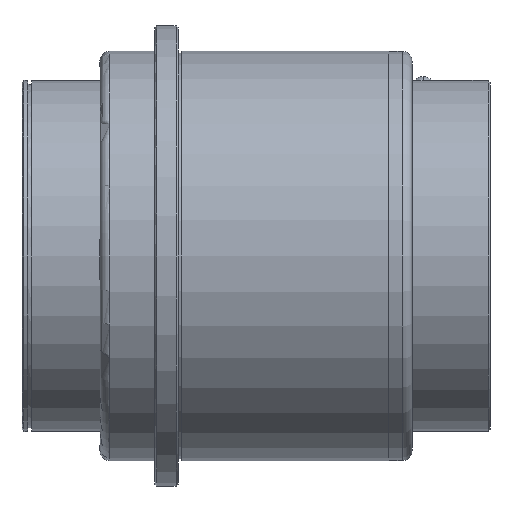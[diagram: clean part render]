
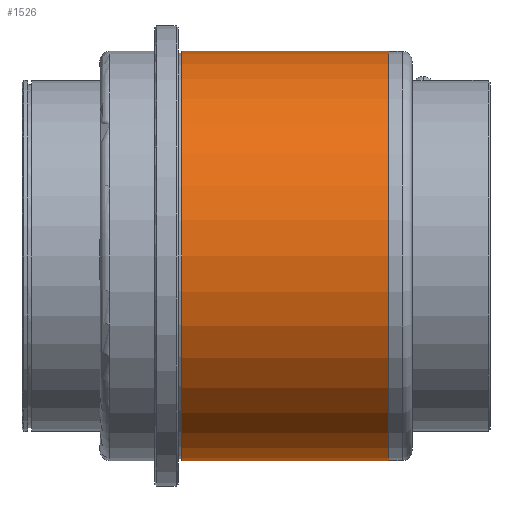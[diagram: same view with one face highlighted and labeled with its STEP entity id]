
A CAD part, front view. The second image highlights one B-rep face of the part: STEP entity #1526.
In plain terms, the highlighted cylindrical face has radius 52.5 mm (diameter 105 mm), a partial arc.
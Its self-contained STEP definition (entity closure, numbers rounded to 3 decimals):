
#1360=CARTESIAN_POINT('Vertex',(74.,0.,52.5)) ;
#1363=CARTESIAN_POINT('Axis2P3D Location',(74.,0.,0.)) ;
#1367=CARTESIAN_POINT('Vertex',(74.,-52.5,0.)) ;
#1370=CARTESIAN_POINT('Axis2P3D Location',(74.,0.,0.)) ;
#1374=CARTESIAN_POINT('Vertex',(74.,0.,-52.5)) ;
#1466=CARTESIAN_POINT('Line Origine',(80.,0.,52.5)) ;
#1470=CARTESIAN_POINT('Vertex',(21.,0.,52.5)) ;
#1473=CARTESIAN_POINT('Line Origine',(80.,0.,-52.5)) ;
#1477=CARTESIAN_POINT('Vertex',(21.,0.,-52.5)) ;
#1501=CARTESIAN_POINT('Axis2P3D Location',(80.,0.,0.)) ;
#1506=CARTESIAN_POINT('Axis2P3D Location',(21.,0.,0.)) ;
#1510=CARTESIAN_POINT('Vertex',(21.,-52.5,0.)) ;
#1513=CARTESIAN_POINT('Axis2P3D Location',(21.,0.,0.)) ;
#1364=DIRECTION('Axis2P3D Direction',(1.,0.,-0.)) ;
#1371=DIRECTION('Axis2P3D Direction',(1.,0.,-0.)) ;
#1467=DIRECTION('Vector Direction',(-1.,0.,0.)) ;
#1474=DIRECTION('Vector Direction',(-1.,0.,0.)) ;
#1502=DIRECTION('Axis2P3D Direction',(-1.,-0.,-0.)) ;
#1503=DIRECTION('Axis2P3D XDirection',(0.,0.,-1.)) ;
#1507=DIRECTION('Axis2P3D Direction',(-1.,-0.,-0.)) ;
#1514=DIRECTION('Axis2P3D Direction',(-1.,-0.,-0.)) ;
#1365=AXIS2_PLACEMENT_3D('Circle Axis2P3D',#1363,#1364,$) ;
#1372=AXIS2_PLACEMENT_3D('Circle Axis2P3D',#1370,#1371,$) ;
#1504=AXIS2_PLACEMENT_3D('Cylinder Axis2P3D',#1501,#1502,#1503) ;
#1508=AXIS2_PLACEMENT_3D('Circle Axis2P3D',#1506,#1507,$) ;
#1515=AXIS2_PLACEMENT_3D('Circle Axis2P3D',#1513,#1514,$) ;
#1519=ORIENTED_EDGE('',*,*,#1479,.T.) ;
#1520=ORIENTED_EDGE('',*,*,#1376,.F.) ;
#1521=ORIENTED_EDGE('',*,*,#1369,.F.) ;
#1522=ORIENTED_EDGE('',*,*,#1472,.T.) ;
#1523=ORIENTED_EDGE('',*,*,#1512,.T.) ;
#1524=ORIENTED_EDGE('',*,*,#1517,.T.) ;
#1468=VECTOR('Line Direction',#1467,1.) ;
#1475=VECTOR('Line Direction',#1474,1.) ;
#1526=ADVANCED_FACE('732-80',(#1525),#1505,.T.) ;
#1366=CIRCLE('generated circle',#1365,52.5) ;
#1373=CIRCLE('generated circle',#1372,52.5) ;
#1509=CIRCLE('generated circle',#1508,52.5) ;
#1516=CIRCLE('generated circle',#1515,52.5) ;
#1505=CYLINDRICAL_SURFACE('generated cylinder',#1504,52.5) ;
#1369=EDGE_CURVE('',#1361,#1368,#1366,.T.) ;
#1376=EDGE_CURVE('',#1368,#1375,#1373,.T.) ;
#1472=EDGE_CURVE('',#1361,#1471,#1469,.T.) ;
#1479=EDGE_CURVE('',#1478,#1375,#1476,.F.) ;
#1512=EDGE_CURVE('',#1471,#1511,#1509,.F.) ;
#1517=EDGE_CURVE('',#1511,#1478,#1516,.F.) ;
#1518=EDGE_LOOP('',(#1519,#1520,#1521,#1522,#1523,#1524)) ;
#1525=FACE_OUTER_BOUND('',#1518,.T.) ;
#1469=LINE('Line',#1466,#1468) ;
#1476=LINE('Line',#1473,#1475) ;
#1361=VERTEX_POINT('',#1360) ;
#1368=VERTEX_POINT('',#1367) ;
#1375=VERTEX_POINT('',#1374) ;
#1471=VERTEX_POINT('',#1470) ;
#1478=VERTEX_POINT('',#1477) ;
#1511=VERTEX_POINT('',#1510) ;
